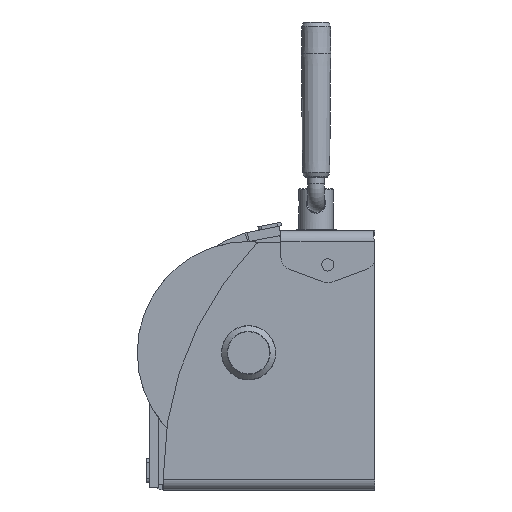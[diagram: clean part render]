
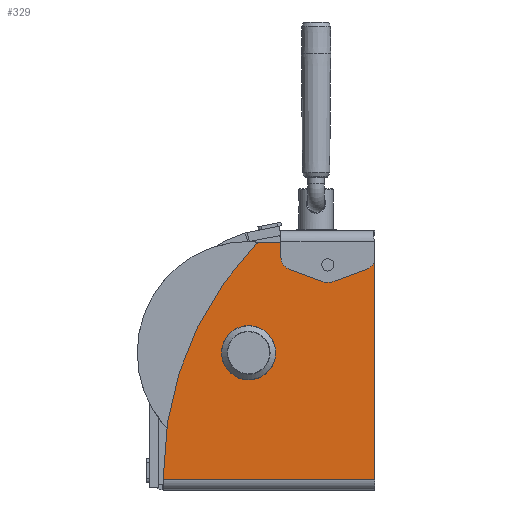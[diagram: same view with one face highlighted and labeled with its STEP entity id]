
A CAD part, left-side view. The second image highlights one B-rep face of the part: STEP entity #329.
In plain terms, the highlighted planar face has unit normal (-1, 0, 0).
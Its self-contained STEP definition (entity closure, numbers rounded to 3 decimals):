
#133 = CARTESIAN_POINT ( 'NONE',  ( -4., 180., 211. ) ) ;
#329 = ADVANCED_FACE ( 'NONE', ( #9662, #17601, #24741 ), #19695, .T. ) ;
#386 = VERTEX_POINT ( 'NONE', #23681 ) ;
#525 = EDGE_CURVE ( 'NONE', #6665, #17126, #33877, .T. ) ;
#1370 = EDGE_CURVE ( 'NONE', #12245, #12245, #18472, .T. ) ;
#1623 = CIRCLE ( 'NONE', #19710, 280.1 ) ;
#1694 = DIRECTION ( 'NONE',  ( 0., 0., 1. ) ) ;
#1880 = CARTESIAN_POINT ( 'NONE',  ( -4., 114.733, 106.5 ) ) ;
#2422 = DIRECTION ( 'NONE',  ( 0., 0., -1. ) ) ;
#2842 = AXIS2_PLACEMENT_3D ( 'NONE', #24669, #8638, #27317 ) ;
#3194 = CARTESIAN_POINT ( 'NONE',  ( -4., 0., 208. ) ) ;
#3366 = DIRECTION ( 'NONE',  ( 1., 0., 0. ) ) ;
#3378 = CARTESIAN_POINT ( 'NONE',  ( -4., 3., 211. ) ) ;
#3509 = CARTESIAN_POINT ( 'NONE',  ( -4., 180., 9. ) ) ;
#4025 = ORIENTED_EDGE ( 'NONE', *, *, #7770, .T. ) ;
#4090 = VERTEX_POINT ( 'NONE', #23091 ) ;
#4765 = CARTESIAN_POINT ( 'NONE',  ( -4., 40., 192. ) ) ;
#4981 = DIRECTION ( 'NONE',  ( 0., 0., 1. ) ) ;
#5798 = VECTOR ( 'NONE', #21412, 1000. ) ;
#6204 = VERTEX_POINT ( 'NONE', #23857 ) ;
#6665 = VERTEX_POINT ( 'NONE', #32427 ) ;
#7755 = EDGE_LOOP ( 'NONE', ( #4025, #18689, #16416, #23060, #22892, #10660, #19704 ) ) ;
#7770 = EDGE_CURVE ( 'NONE', #6204, #18217, #11999, .T. ) ;
#8596 = CARTESIAN_POINT ( 'NONE',  ( -4., 180., 4. ) ) ;
#8638 = DIRECTION ( 'NONE',  ( 1., 0., 0. ) ) ;
#9570 = EDGE_LOOP ( 'NONE', ( #21878 ) ) ;
#9662 = FACE_BOUND ( 'NONE', #9570, .T. ) ;
#10135 = VERTEX_POINT ( 'NONE', #3378 ) ;
#10143 = DIRECTION ( 'NONE',  ( 1., 0., 0. ) ) ;
#10660 = ORIENTED_EDGE ( 'NONE', *, *, #30369, .T. ) ;
#10948 = CIRCLE ( 'NONE', #2842, 12.75 ) ;
#11999 = LINE ( 'NONE', #34453, #18289 ) ;
#12175 = LINE ( 'NONE', #3509, #25576 ) ;
#12245 = VERTEX_POINT ( 'NONE', #31287 ) ;
#13299 = VERTEX_POINT ( 'NONE', #26354 ) ;
#13336 = AXIS2_PLACEMENT_3D ( 'NONE', #8596, #26366, #4981 ) ;
#13392 = VECTOR ( 'NONE', #17360, 1000. ) ;
#13705 = LINE ( 'NONE', #26941, #33368 ) ;
#13710 = DIRECTION ( 'NONE',  ( -1., 0., 0. ) ) ;
#15611 = CARTESIAN_POINT ( 'NONE',  ( -4., 101.486, 209.471 ) ) ;
#16416 = ORIENTED_EDGE ( 'NONE', *, *, #21815, .T. ) ;
#17126 = VERTEX_POINT ( 'NONE', #1880 ) ;
#17140 = CIRCLE ( 'NONE', #23489, 3. ) ;
#17360 = DIRECTION ( 'NONE',  ( 0., 1., 0. ) ) ;
#17528 = EDGE_CURVE ( 'NONE', #17126, #6665, #10948, .T. ) ;
#17575 = ORIENTED_EDGE ( 'NONE', *, *, #525, .T. ) ;
#17601 = FACE_BOUND ( 'NONE', #32726, .T. ) ;
#17697 = DIRECTION ( 'NONE',  ( -1., 0., 0. ) ) ;
#18217 = VERTEX_POINT ( 'NONE', #3194 ) ;
#18289 = VECTOR ( 'NONE', #26435, 1000. ) ;
#18472 = CIRCLE ( 'NONE', #24597, 5.25 ) ;
#18689 = ORIENTED_EDGE ( 'NONE', *, *, #18784, .T. ) ;
#18784 = EDGE_CURVE ( 'NONE', #18217, #10135, #17140, .T. ) ;
#19408 = CARTESIAN_POINT ( 'NONE',  ( -4., -100.1, 15. ) ) ;
#19695 = PLANE ( 'NONE',  #13336 ) ;
#19704 = ORIENTED_EDGE ( 'NONE', *, *, #29334, .T. ) ;
#19710 = AXIS2_PLACEMENT_3D ( 'NONE', #19408, #3366, #22102 ) ;
#19948 = EDGE_CURVE ( 'NONE', #4090, #26568, #1623, .T. ) ;
#21412 = DIRECTION ( 'NONE',  ( 0., 1., 0. ) ) ;
#21815 = EDGE_CURVE ( 'NONE', #10135, #386, #34193, .T. ) ;
#21878 = ORIENTED_EDGE ( 'NONE', *, *, #1370, .T. ) ;
#22102 = DIRECTION ( 'NONE',  ( 0., 0., 1. ) ) ;
#22892 = ORIENTED_EDGE ( 'NONE', *, *, #19948, .F. ) ;
#23060 = ORIENTED_EDGE ( 'NONE', *, *, #30342, .T. ) ;
#23091 = CARTESIAN_POINT ( 'NONE',  ( -4., 180., 15. ) ) ;
#23315 = CARTESIAN_POINT ( 'NONE',  ( -4., 114.733, 106.5 ) ) ;
#23489 = AXIS2_PLACEMENT_3D ( 'NONE', #33678, #17697, #1694 ) ;
#23681 = CARTESIAN_POINT ( 'NONE',  ( -4., 97.887, 211. ) ) ;
#23857 = CARTESIAN_POINT ( 'NONE',  ( -4., 0., 9. ) ) ;
#24597 = AXIS2_PLACEMENT_3D ( 'NONE', #4765, #10143, #2422 ) ;
#24669 = CARTESIAN_POINT ( 'NONE',  ( -4., 107.5, 117. ) ) ;
#24741 = FACE_OUTER_BOUND ( 'NONE', #7755, .T. ) ;
#25081 = ORIENTED_EDGE ( 'NONE', *, *, #17528, .T. ) ;
#25576 = VECTOR ( 'NONE', #27584, 1000. ) ;
#25832 = AXIS2_PLACEMENT_3D ( 'NONE', #29738, #13710, #32420 ) ;
#26354 = CARTESIAN_POINT ( 'NONE',  ( -4., 180., 9. ) ) ;
#26366 = DIRECTION ( 'NONE',  ( -1., 0., 0. ) ) ;
#26435 = DIRECTION ( 'NONE',  ( 0., 0., 1. ) ) ;
#26568 = VERTEX_POINT ( 'NONE', #15611 ) ;
#26941 = CARTESIAN_POINT ( 'NONE',  ( -4., 180., 4. ) ) ;
#27052 = DIRECTION ( 'NONE',  ( 0., 0., -1. ) ) ;
#27111 = CIRCLE ( 'NONE', #25832, 5. ) ;
#27317 = DIRECTION ( 'NONE',  ( 0., 0., 1. ) ) ;
#27584 = DIRECTION ( 'NONE',  ( 0., -1., 0. ) ) ;
#29334 = EDGE_CURVE ( 'NONE', #13299, #6204, #12175, .T. ) ;
#29738 = CARTESIAN_POINT ( 'NONE',  ( -4., 97.887, 206. ) ) ;
#30342 = EDGE_CURVE ( 'NONE', #386, #26568, #27111, .T. ) ;
#30369 = EDGE_CURVE ( 'NONE', #4090, #13299, #13705, .T. ) ;
#31287 = CARTESIAN_POINT ( 'NONE',  ( -4., 40., 186.75 ) ) ;
#32420 = DIRECTION ( 'NONE',  ( 0., 0., 1. ) ) ;
#32427 = CARTESIAN_POINT ( 'NONE',  ( -4., 100.267, 106.5 ) ) ;
#32726 = EDGE_LOOP ( 'NONE', ( #17575, #25081 ) ) ;
#33368 = VECTOR ( 'NONE', #27052, 1000. ) ;
#33678 = CARTESIAN_POINT ( 'NONE',  ( -4., 3., 208. ) ) ;
#33877 = LINE ( 'NONE', #23315, #13392 ) ;
#34193 = LINE ( 'NONE', #133, #5798 ) ;
#34453 = CARTESIAN_POINT ( 'NONE',  ( -4., 0., 211. ) ) ;
